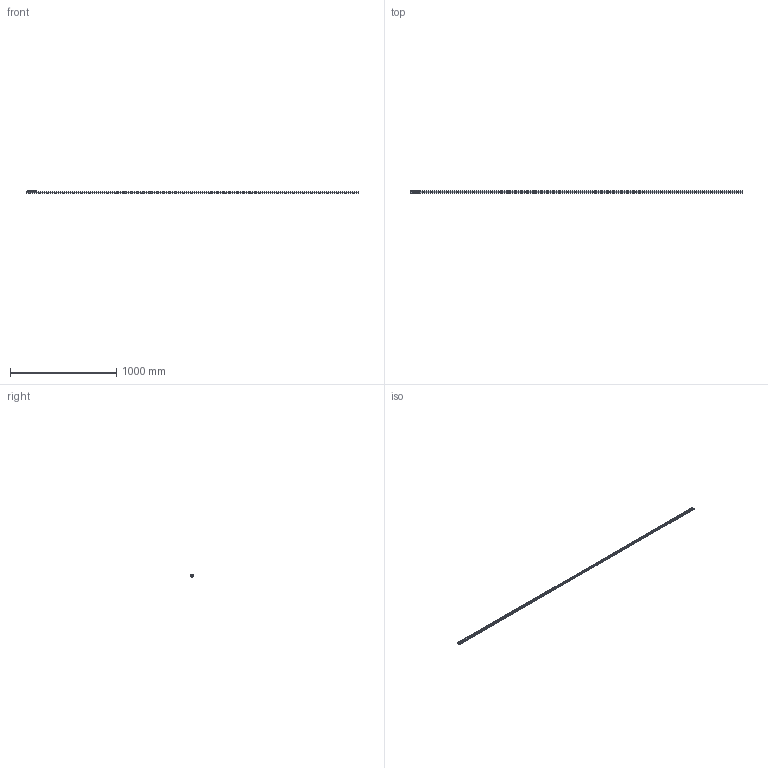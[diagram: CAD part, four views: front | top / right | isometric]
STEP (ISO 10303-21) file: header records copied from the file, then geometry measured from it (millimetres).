
FILE_DESCRIPTION( ( 'STEP AP214' ), '1' );
FILE_NAME( 'p:/temp/worker_23/temp/exporttempdir_82112_123_DGqva/format_0/TEN26-3120-CEN26-92.stp', '2020-05-08T18:54:40', ( 'License CC BY-ND 4.0' ), ( 'CADENAS' ), ' ', 'PARTsolutions', ' ' );
FILE_SCHEMA( ( 'AUTOMOTIVE_DESIGN { 1 0 10303 214 1 1 1 1 }' ) );
Length unit declared in the file: millimetre
Products named in the file (6): TEN26-3120-CEN26-92; _TEN 26-3120; _CEN26-92_1; _RLN26(11.2_M5); _RLA26(11.2_M5); _LAN-26
Assembly tree (8 placements, depth 2):
  TEN26-3120-CEN26-92
    _TEN 26-3120
    _CEN26-92_1
    _RLN26(11.2_M5)  x2
    _RLA26(11.2_M5)
    _LAN-26  x3
Bounding box: 3120 x 26 x 22 mm (x, y, z)
Volume: 335370.1 mm3; surface area: 284543.8 mm2
Topology: 8 solids, 8 shells, 272 faces, 618 edges, 389 vertices
Faces by surface type: plane 131, cylinder 108, cone 24, bspline 9
Full cylindrical faces by diameter (mm): 2.5 x2, 4.134 x5, 4.5 x3, 5 x6, 6.5 x39, 9.3 x3, 11.2 x6, 11.6 x6, 15.7 x6, 16.7 x6
Entity records: 6896 total; most frequent: CARTESIAN_POINT 980, DIRECTION 946, ORIENTED_EDGE 690, AXIS2_PLACEMENT_3D 409, EDGE_LOOP 388, EDGE_CURVE 345, VERTEX_POINT 275, FACE_OUTER_BOUND 262
